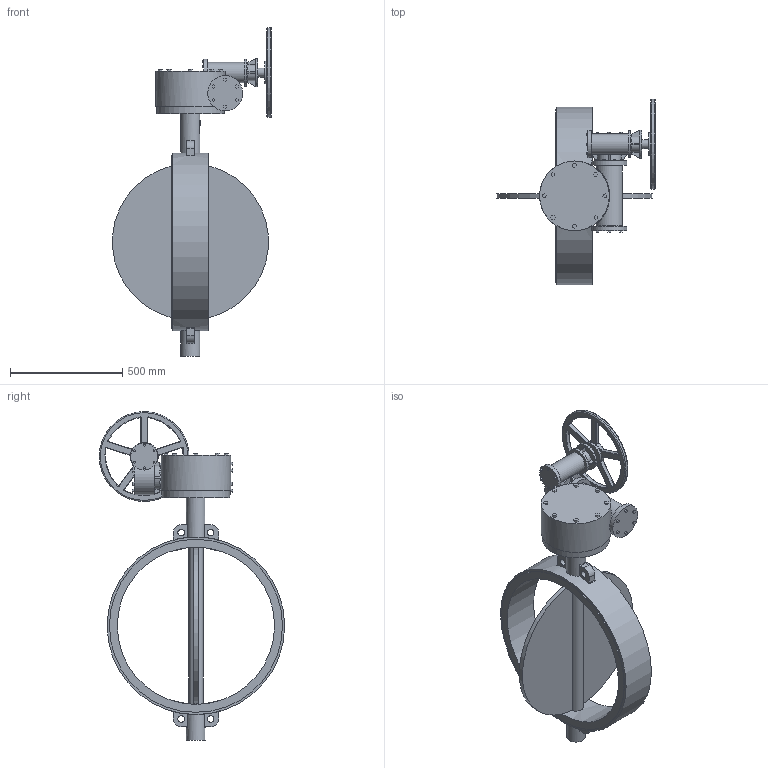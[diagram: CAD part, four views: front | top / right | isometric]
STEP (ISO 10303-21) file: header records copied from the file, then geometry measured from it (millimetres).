
FILE_DESCRIPTION(('STEP AP203'), '1');
FILE_NAME('青蜮铕 017W.YS_DN700_PN16_疱潴牝铕', '', ('UNSPECIFIED'), ('UNSPECIFIED'), 'ASCON STEP Converter 1.6', 'ASCON Math Kernel', '');
FILE_SCHEMA(('CONFIG_CONTROL_DESIGN'));
Length unit declared in the file: millimetre
Bounding box: 706.18 x 825 x 1463 mm (x, y, z)
Volume: 49901639.1 mm3; surface area: 2742998.1 mm2
Topology: 1 solids, 1 shells, 625 faces, 1579 edges, 1008 vertices
Faces by surface type: plane 399, cylinder 117, torus 81, cone 16, bspline 12
Full cylindrical faces by diameter (mm): 13.835 x8, 18 x8, 29.211 x4, 40 x1, 65 x1, 85 x2, 90 x1, 100 x1, 116 x1, 120 x2, 125 x1, 156 x3, 300 x1, 310 x1, 400 x1, 700 x1, 770 x2, 790 x1
Entity records: 26041 total; most frequent: CARTESIAN_POINT 6146, DIRECTION 3078, ORIENTED_EDGE 3006, EDGE_CURVE 1503, AXIS2_PLACEMENT_3D 1033, LINE 1012, VECTOR 1012, VERTEX_POINT 998
